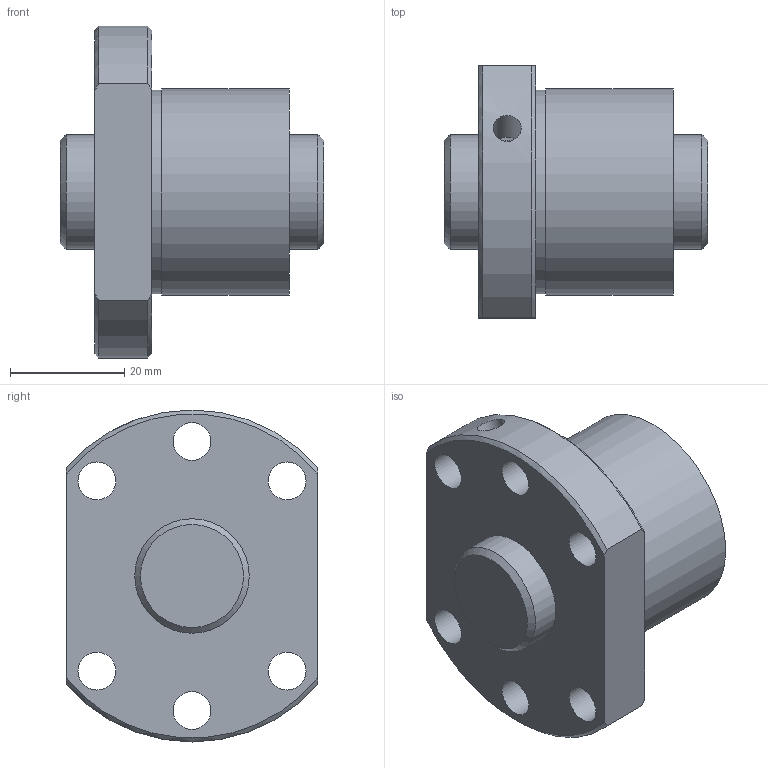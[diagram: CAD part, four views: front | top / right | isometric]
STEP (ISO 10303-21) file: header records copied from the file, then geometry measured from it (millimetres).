
FILE_DESCRIPTION(/* description */ ('STEP AP203'),/* implementation_level */ '2;1');
FILE_NAME(/* name */ 'SDA2006V-4G0+46LC0(0G000)',/* time_stamp */ '2024-05-28T11:29:55+02:00',/* author */ ('License CC BY-ND 4.0'),/* organization */ ('CADENAS'),/* preprocessor_version */ 'ST-DEVELOPER v19.3',/* originating_system */ 'PARTsolutions',/* authorisation */ ' ');
FILE_SCHEMA (('CONFIG_CONTROL_DESIGN'));
Length unit declared in the file: millimetre
Products named in the file (3): SDA2006V-4G0+46LC0(0G000); 000SDA2006V-40Shaft; SDA-V serieSDA2006V-4nut
Assembly tree (2 placements, depth 2):
  SDA2006V-4G0+46LC0(0G000)
    000SDA2006V-40Shaft
    SDA-V serieSDA2006V-4nut
Bounding box: 46 x 44 x 58 mm (x, y, z)
Volume: 48498.7 mm3; surface area: 15009.5 mm2
Topology: 2 solids, 2 shells, 29 faces, 71 edges, 48 vertices
Faces by surface type: cylinder 14, plane 8, cone 7
Full cylindrical faces by diameter (mm): 3.9 x1, 4.917 x1, 6.6 x6, 20 x2, 35.6 x1, 36 x1
Entity records: 875 total; most frequent: CARTESIAN_POINT 168, DIRECTION 136, ORIENTED_EDGE 100, AXIS2_PLACEMENT_3D 64, EDGE_LOOP 62, FACE_BOUND 62, EDGE_CURVE 50, VERTEX_POINT 42
